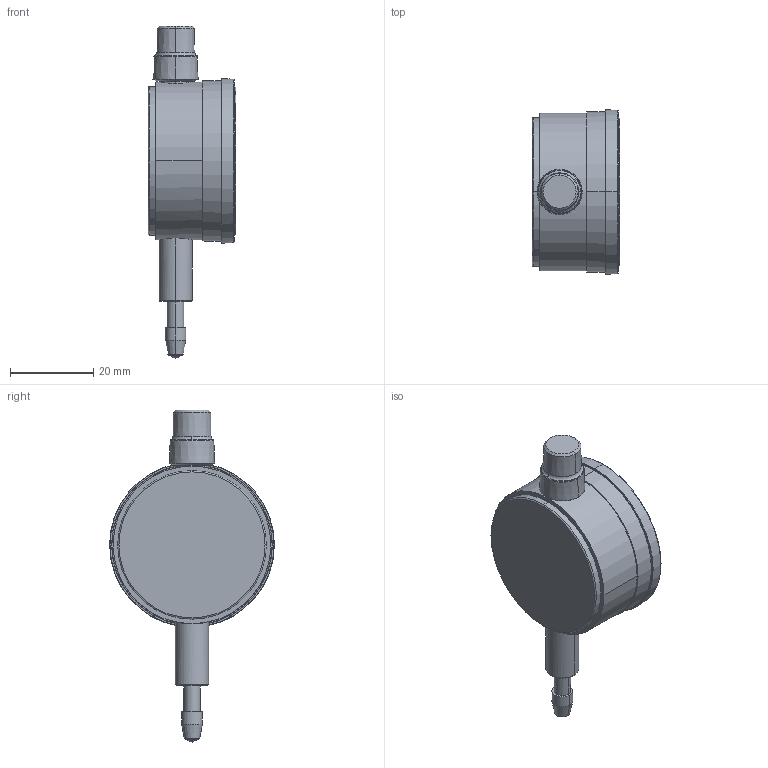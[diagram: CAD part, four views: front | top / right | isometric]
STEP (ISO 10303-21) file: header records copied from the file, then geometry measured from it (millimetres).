
FILE_DESCRIPTION(('Creo Elements/Direct Modeling STEP Export'),'2;1');
FILE_NAME('1929SB.stp','2020-03-23T 9:32:00',(''),(''),'Creo Elements/Direct Modeling STEP processor for AP214 (Solid Model)','Creo Elements/Direct Modeling 18.1I 13-Aug-2016 (C) Parametric Technology GmbH','');
FILE_SCHEMA(('AUTOMOTIVE_DESIGN { 1 0 10303 214 1 1 1 1 }'));
Length unit declared in the file: millimetre
Products named in the file (2): 1929SB
Assembly tree (1 placements, depth 2):
  1929SB
    1929SB
Bounding box: 21.1 x 39.71 x 80 mm (x, y, z)
Volume: 26076.8 mm3; surface area: 5947.4 mm2
Topology: 1 solids, 1 shells, 64 faces, 152 edges, 99 vertices
Faces by surface type: cone 26, cylinder 16, plane 12, torus 6, revolution 2, sphere 2
Entity records: 2432 total; most frequent: CARTESIAN_POINT 1046, ORIENTED_EDGE 300, DIRECTION 262, EDGE_CURVE 150, AXIS2_PLACEMENT_3D 109, VERTEX_POINT 99, EDGE_LOOP 75, FACE_OUTER_BOUND 64
